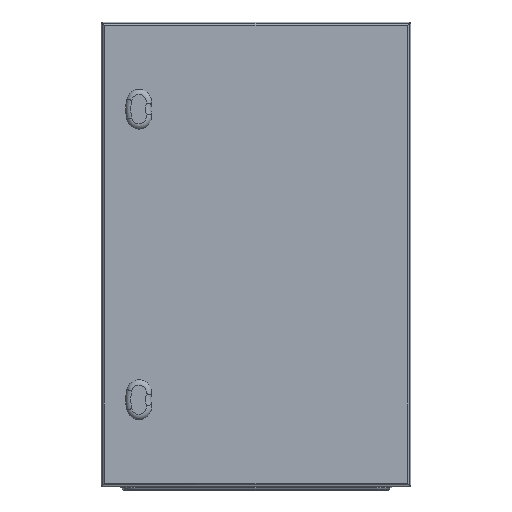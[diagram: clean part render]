
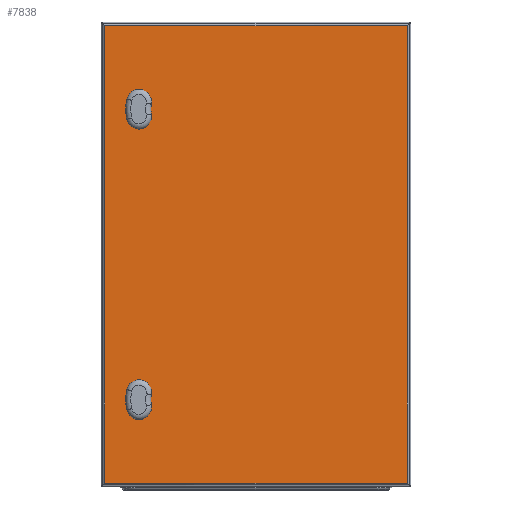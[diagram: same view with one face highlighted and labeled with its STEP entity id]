
A CAD part, front view. The second image highlights one B-rep face of the part: STEP entity #7838.
In plain terms, the highlighted planar face has unit normal (0, -1, 0).
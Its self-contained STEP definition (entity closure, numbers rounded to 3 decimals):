
#556=LINE('',#12733,#1000);
#557=LINE('',#12736,#1001);
#558=LINE('',#12738,#1002);
#559=LINE('',#12740,#1003);
#1000=VECTOR('',#10146,1000.);
#1001=VECTOR('',#10147,1000.);
#1002=VECTOR('',#10148,1000.);
#1003=VECTOR('',#10149,1000.);
#1862=ORIENTED_EDGE('',*,*,#3634,.F.);
#1863=ORIENTED_EDGE('',*,*,#3635,.T.);
#1864=ORIENTED_EDGE('',*,*,#3636,.T.);
#1865=ORIENTED_EDGE('',*,*,#3637,.T.);
#1866=ORIENTED_EDGE('',*,*,#3638,.F.);
#1867=ORIENTED_EDGE('',*,*,#3639,.T.);
#1868=ORIENTED_EDGE('',*,*,#3640,.T.);
#1869=ORIENTED_EDGE('',*,*,#3641,.T.);
#1870=ORIENTED_EDGE('',*,*,#3642,.F.);
#1871=ORIENTED_EDGE('',*,*,#3643,.F.);
#1872=ORIENTED_EDGE('',*,*,#3644,.T.);
#1873=ORIENTED_EDGE('',*,*,#3645,.T.);
#3634=EDGE_CURVE('',#4576,#4577,#5214,.T.);
#3635=EDGE_CURVE('',#4576,#4578,#5215,.T.);
#3636=EDGE_CURVE('',#4578,#4579,#5216,.T.);
#3637=EDGE_CURVE('',#4579,#4577,#5217,.T.);
#3638=EDGE_CURVE('',#4580,#4581,#5218,.T.);
#3639=EDGE_CURVE('',#4580,#4582,#5219,.T.);
#3640=EDGE_CURVE('',#4582,#4583,#5220,.T.);
#3641=EDGE_CURVE('',#4583,#4581,#5221,.T.);
#3642=EDGE_CURVE('',#4584,#4585,#556,.F.);
#3643=EDGE_CURVE('',#4586,#4584,#557,.T.);
#3644=EDGE_CURVE('',#4586,#4587,#558,.F.);
#3645=EDGE_CURVE('',#4587,#4585,#559,.T.);
#4576=VERTEX_POINT('',#12718);
#4577=VERTEX_POINT('',#12719);
#4578=VERTEX_POINT('',#12721);
#4579=VERTEX_POINT('',#12723);
#4580=VERTEX_POINT('',#12726);
#4581=VERTEX_POINT('',#12727);
#4582=VERTEX_POINT('',#12729);
#4583=VERTEX_POINT('',#12731);
#4584=VERTEX_POINT('',#12734);
#4585=VERTEX_POINT('',#12735);
#4586=VERTEX_POINT('',#12737);
#4587=VERTEX_POINT('',#12739);
#5214=CIRCLE('',#8572,34.3);
#5215=CIRCLE('',#8573,16.2);
#5216=CIRCLE('',#8574,60.7);
#5217=CIRCLE('',#8575,16.2);
#5218=CIRCLE('',#8576,34.3);
#5219=CIRCLE('',#8577,16.2);
#5220=CIRCLE('',#8578,60.7);
#5221=CIRCLE('',#8579,16.2);
#5853=EDGE_LOOP('',(#1862,#1863,#1864,#1865));
#5854=EDGE_LOOP('',(#1866,#1867,#1868,#1869));
#5855=EDGE_LOOP('',(#1870,#1871,#1872,#1873));
#6791=FACE_BOUND('',#5853,.T.);
#6792=FACE_BOUND('',#5854,.T.);
#6793=FACE_BOUND('',#5855,.T.);
#7552=PLANE('',#8571);
#7838=ADVANCED_FACE('',(#6791,#6792,#6793),#7552,.F.);
#8571=AXIS2_PLACEMENT_3D('',#12716,#10128,#10129);
#8572=AXIS2_PLACEMENT_3D('',#12717,#10130,#10131);
#8573=AXIS2_PLACEMENT_3D('',#12720,#10132,#10133);
#8574=AXIS2_PLACEMENT_3D('',#12722,#10134,#10135);
#8575=AXIS2_PLACEMENT_3D('',#12724,#10136,#10137);
#8576=AXIS2_PLACEMENT_3D('',#12725,#10138,#10139);
#8577=AXIS2_PLACEMENT_3D('',#12728,#10140,#10141);
#8578=AXIS2_PLACEMENT_3D('',#12730,#10142,#10143);
#8579=AXIS2_PLACEMENT_3D('',#12732,#10144,#10145);
#10128=DIRECTION('',(0.,1.,0.));
#10129=DIRECTION('',(0.,0.,1.));
#10130=DIRECTION('',(0.,1.,0.));
#10131=DIRECTION('',(1.,0.,0.));
#10132=DIRECTION('',(0.,1.,0.));
#10133=DIRECTION('',(1.,0.,0.));
#10134=DIRECTION('',(0.,1.,0.));
#10135=DIRECTION('',(1.,0.,0.));
#10136=DIRECTION('',(0.,1.,0.));
#10137=DIRECTION('',(1.,0.,0.));
#10138=DIRECTION('',(0.,1.,0.));
#10139=DIRECTION('',(1.,0.,0.));
#10140=DIRECTION('',(0.,1.,0.));
#10141=DIRECTION('',(1.,0.,0.));
#10142=DIRECTION('',(0.,1.,0.));
#10143=DIRECTION('',(1.,0.,0.));
#10144=DIRECTION('',(0.,1.,0.));
#10145=DIRECTION('',(1.,0.,0.));
#10146=DIRECTION('',(0.,0.,-1.));
#10147=DIRECTION('',(-1.,0.,0.));
#10148=DIRECTION('',(0.,0.,-1.));
#10149=DIRECTION('',(-1.,0.,0.));
#12716=CARTESIAN_POINT('',(0.,-16.5,0.));
#12717=CARTESIAN_POINT('',(-101.402,-16.5,-187.5));
#12718=CARTESIAN_POINT('',(-135.089,-16.5,-193.952));
#12719=CARTESIAN_POINT('',(-135.089,-16.5,-181.048));
#12720=CARTESIAN_POINT('',(-151.,-16.5,-197.));
#12721=CARTESIAN_POINT('',(-166.827,-16.5,-200.458));
#12722=CARTESIAN_POINT('',(-107.526,-16.5,-187.5));
#12723=CARTESIAN_POINT('',(-166.827,-16.5,-174.542));
#12724=CARTESIAN_POINT('',(-151.,-16.5,-178.));
#12725=CARTESIAN_POINT('',(-101.402,-16.5,187.5));
#12726=CARTESIAN_POINT('',(-135.089,-16.5,181.048));
#12727=CARTESIAN_POINT('',(-135.089,-16.5,193.952));
#12728=CARTESIAN_POINT('',(-151.,-16.5,178.));
#12729=CARTESIAN_POINT('',(-166.827,-16.5,174.542));
#12730=CARTESIAN_POINT('',(-107.526,-16.5,187.5));
#12731=CARTESIAN_POINT('',(-166.827,-16.5,200.458));
#12732=CARTESIAN_POINT('',(-151.,-16.5,197.));
#12733=CARTESIAN_POINT('',(-195.,-16.5,300.));
#12734=CARTESIAN_POINT('',(-195.,-16.5,-295.));
#12735=CARTESIAN_POINT('',(-195.,-16.5,295.));
#12736=CARTESIAN_POINT('',(200.,-16.5,-295.));
#12737=CARTESIAN_POINT('',(195.,-16.5,-295.));
#12738=CARTESIAN_POINT('',(195.,-16.5,300.));
#12739=CARTESIAN_POINT('',(195.,-16.5,295.));
#12740=CARTESIAN_POINT('',(200.,-16.5,295.));
